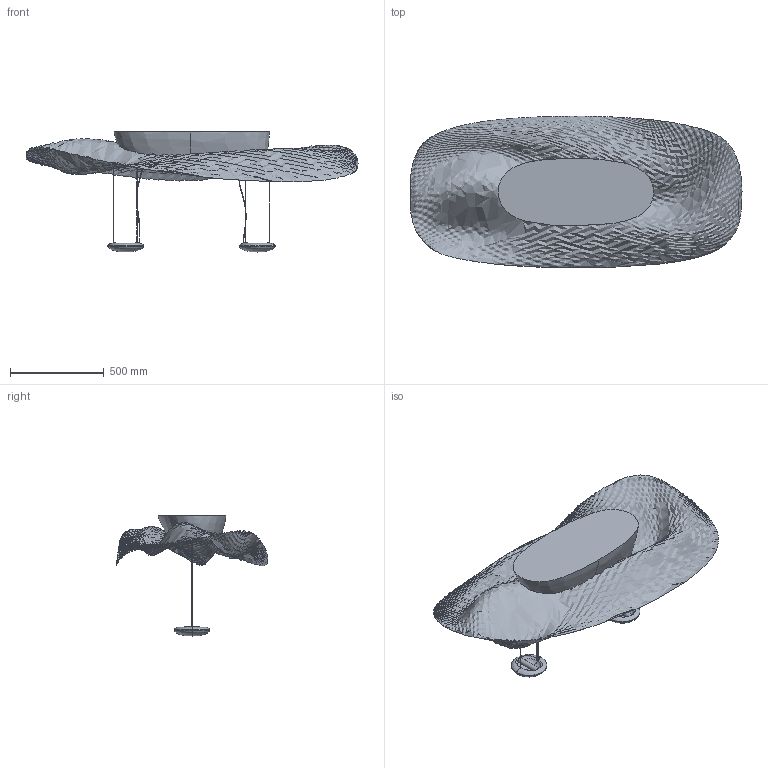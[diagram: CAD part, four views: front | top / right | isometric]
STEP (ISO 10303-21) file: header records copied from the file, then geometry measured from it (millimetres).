
FILE_DESCRIPTION(/* description */ (''),/* implementation_level */ '2;1');
FILE_NAME(/* name */ 'Cosmic_Angel_Soffitto_3D',/* time_stamp */ '2011-11-03T14:51:04+01:00',/* author */ (''),/* organization */ (''),/* preprocessor_version */ 'ST-DEVELOPER v10',/* originating_system */ '',/* authorisation */ '');
FILE_SCHEMA (('CONFIG_CONTROL_DESIGN'));
Length unit declared in the file: centimetre
Products named in the file (1): 1
Bounding box: 1773.25 x 810.5 x 641.11 mm (x, y, z)
Volume: 65027.3 mm3; surface area: 2420033.2 mm2
Topology: 6 solids, 14 shells, 78 faces, 235 edges, 169 vertices
Faces by surface type: bspline 78
Entity records: 17130 total; most frequent: CARTESIAN_POINT 15824, ORIENTED_EDGE 399, EDGE_CURVE 227, VERTEX_POINT 169, B_SPLINE_CURVE_WITH_KNOTS 116, EDGE_LOOP 80, ADVANCED_FACE 78, FACE_OUTER_BOUND 78
